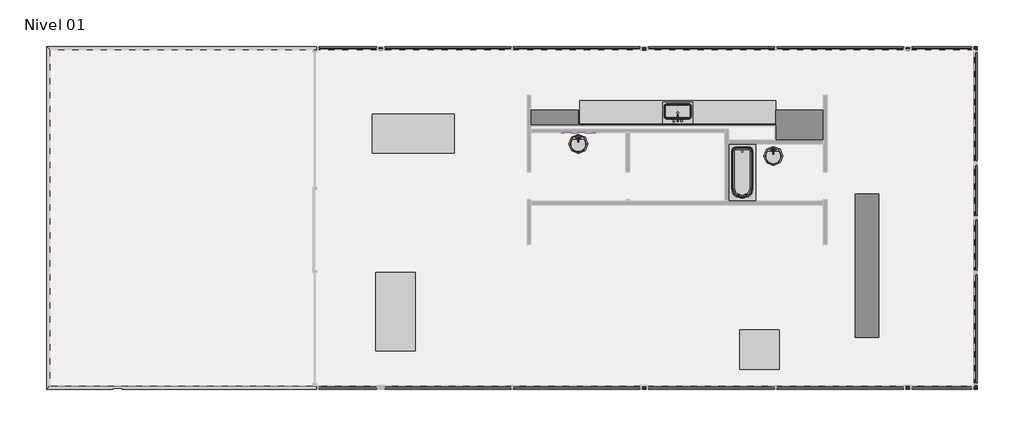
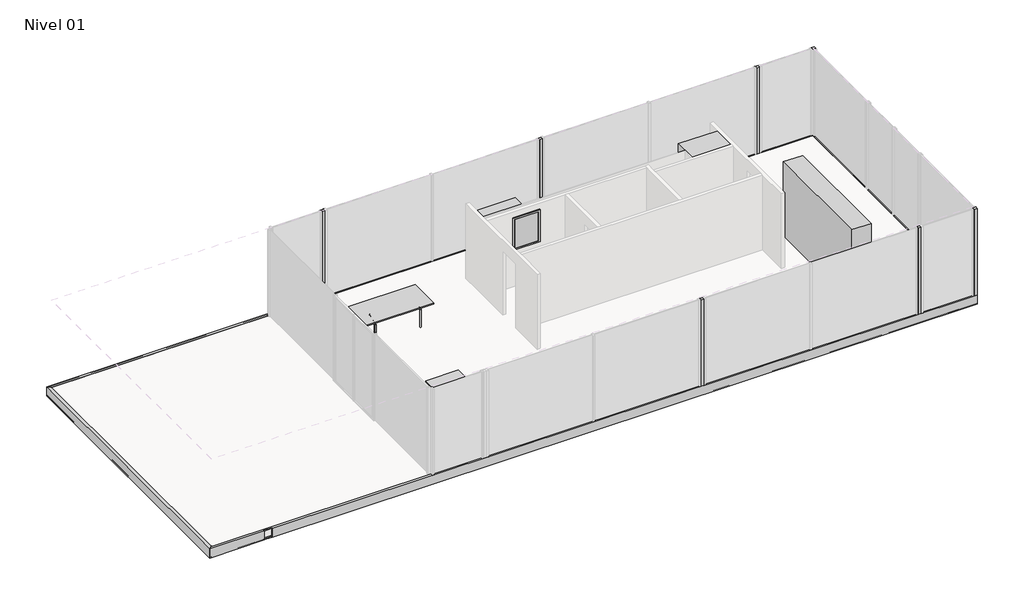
# One storey, part 2 of 2: 14 furniture elements, 7 columns, 4 beams, 4 flow terminals, 1 proxy.
"""IFC4 building model written with IfcOpenShell, lengths in millimetres."""

from ifc_helpers import new_model, si_unit, frame, origin, place, context, project, spatial, polyline, circle_curve, ellipse_curve, outline, extrude, transform, mapped, element, save
from ifc_brep_helpers import plane_surface, cylinder_surface, revolved_surface, advanced_brep
from components import proxy_60cm_a1c3a77f, flow_terminal_14610x_696_mm_010d118e, flow_terminal_482_x_482_mm_0851827a, flow_terminal_760_x_535_mm_626cda17, furniture_ca6b1e75, furniture_fff9fc54, furniture_0e7ee97b, furniture_1dcb9a52, furniture_73ddd999, furniture_38bbf0a8, furniture_2635d5df, furniture_1000_mm_e8eab364, furniture_300_mm_76ee4873, furniture_300_mm_86855b35, furniture_600_mm_683f1335

model = new_model("IFC4")

# Units and contexts
model_context = context("Model", 3, world=origin())
ifc_project = project(units=[si_unit("LENGTHUNIT", "METRE", prefix="MILLI")], contexts=[model_context])

# Site, building, storey
site = spatial("IfcSite", under=ifc_project)
building = spatial("IfcBuilding", under=site)
storey = spatial("IfcBuildingStorey", under=building, Name="Nivel 01", Elevation=1430.0)

# Beams
placement = place(None, origin())
element("IfcBeam", 1, ObjectType="Viga UPN : UPN 300", at=placement, inside=storey, context=model_context, shape_type="AdvancedBrep", body=[
    advanced_brep(
    [(-9319.7825244, 5247.4380644, 1130.0), (-9319.7825244, -3493.1309012, 1130.0), (-9319.7825244, -3493.1309012, 1430.0), (-9319.7825244, 5247.4380644, 1430.0), (-9219.7825244, 5147.4380644, 1130.0), (-9219.7825244, -3393.1309012, 1130.0), (-9219.7825244, 5147.4380644, 1134.6144408), (-9219.7825244, -3393.1309012, 1134.6144408), (-9227.1445626, 5154.8001026, 1142.5889631), (-9227.1445626, -3400.4929394, 1142.5889631), (-9295.0584479, 5222.7139879, 1148.0220739), (-9295.0584479, -3468.4068247, 1148.0220739), (-9309.7825244, 5237.4380644, 1163.9711183), (-9309.7825244, -3483.1309012, 1163.9711183), (-9309.7825244, 5237.4380644, 1396.0288817), (-9309.7825244, -3483.1309012, 1396.0288817), (-9295.0584479, 5222.7139879, 1411.9779261), (-9295.0584479, -3468.4068247, 1411.9779261), (-9227.1445626, 5154.8001026, 1417.4110369), (-9227.1445626, -3400.4929394, 1417.4110369), (-9219.7825244, 5147.4380644, 1425.3855592), (-9219.7825244, -3393.1309012, 1425.3855592), (-9219.7825244, 5147.4380644, 1430.0), (-9219.7825244, -3393.1309012, 1430.0)],
    [
        (0, 1),
        (1, 2),
        (2, 3),
        (3, 0),
        (4, 5),
        (5, 1),
        (0, 4),
        (6, 7),
        (7, 5),
        (4, 6),
        (8, 9),
        (9, 7, ellipse_curve(frame((-9227.7825244, -3401.1309012, 1134.6144408), z_axis=(-0.7071067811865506, 0.7071067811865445, 0.0), x_axis=(0.7071067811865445, 0.7071067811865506, 0.0)), 11.3137085, 8.0)),
        (6, 8, ellipse_curve(frame((-9227.7825244, 5155.4380644, 1134.6144408), z_axis=(-0.7071067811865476, -0.7071067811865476, 0.0), x_axis=(-0.7071067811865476, 0.7071067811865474, 0.0)), 11.3137085, 8.0)),
        (8, 10),
        (10, 11),
        (11, 9),
        (12, 13),
        (13, 11, ellipse_curve(frame((-9293.7825244, -3467.1309012, 1163.9711183), z_axis=(0.7071067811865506, -0.7071067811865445, 0.0), x_axis=(-0.7071067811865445, -0.7071067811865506, 0.0)), 22.627417, 16.0)),
        (10, 12, ellipse_curve(frame((-9293.7825244, 5221.4380644, 1163.9711183), z_axis=(0.7071067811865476, 0.7071067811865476, 0.0), x_axis=(0.7071067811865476, -0.7071067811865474, 0.0)), 22.627417, 16.0)),
        (14, 15),
        (15, 13),
        (12, 14),
        (16, 17),
        (17, 15, ellipse_curve(frame((-9293.7825244, -3467.1309012, 1396.0288817), z_axis=(0.7071067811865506, -0.7071067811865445, 0.0), x_axis=(-0.7071067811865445, -0.7071067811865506, 0.0)), 22.627417, 16.0)),
        (14, 16, ellipse_curve(frame((-9293.7825244, 5221.4380644, 1396.0288817), z_axis=(0.7071067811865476, 0.7071067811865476, 0.0), x_axis=(0.7071067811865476, -0.7071067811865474, 0.0)), 22.627417, 16.0)),
        (16, 18),
        (18, 19),
        (19, 17),
        (20, 21),
        (21, 19, ellipse_curve(frame((-9227.7825244, -3401.1309012, 1425.3855592), z_axis=(-0.7071067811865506, 0.7071067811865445, 0.0), x_axis=(0.7071067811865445, 0.7071067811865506, 0.0)), 11.3137085, 8.0)),
        (18, 20, ellipse_curve(frame((-9227.7825244, 5155.4380644, 1425.3855592), z_axis=(-0.7071067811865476, -0.7071067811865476, 0.0), x_axis=(-0.7071067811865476, 0.7071067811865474, 0.0)), 11.3137085, 8.0)),
        (22, 23),
        (23, 21),
        (20, 22),
        (2, 23),
        (22, 3),
    ],
    [
        plane_surface(frame((-9319.7825244, 5286.9035816, 1430.0), z_axis=(-1.0, 0.0, 0.0), x_axis=(0.0, -1.0, 0.0))),
        plane_surface(frame((-9319.7825244, 5286.9035816, 1130.0), z_axis=(0.0, 0.0, -1.0), x_axis=(0.0, -1.0, 0.0))),
        plane_surface(frame((-9219.7825244, 5286.9035816, 1130.0), z_axis=(1.0, 0.0, 0.0), x_axis=(0.0, -1.0, 0.0))),
        cylinder_surface(frame((-9227.7825244, 5286.9035816, 1134.6144408), z_axis=(0.0, 1.0, 0.0), x_axis=(1.0, 0.0, 0.0)), 8.0),
        plane_surface(frame((-9269.7825244, 5286.9035816, 1146.0), z_axis=(0.07974522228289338, 0.0, 0.9968152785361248), x_axis=(0.0, -1.0, 0.0))),
        revolved_surface(polyline([(-9277.7825244, -3483.1309012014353, 1163.9711183), (-9277.7825244, 5237.438064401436, 1163.9711183)]), (-9293.7825244, 5286.9035816, 1163.9711183), (0.0, -1.0, 0.0)),
        plane_surface(frame((-9309.7825244, 5286.9035816, 1163.9711183), z_axis=(1.0, 0.0, 0.0), x_axis=(0.0, -1.0, 0.0))),
        revolved_surface(polyline([(-9277.7825244, -3483.1309012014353, 1396.0288817), (-9277.7825244, 5237.438064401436, 1396.0288817)]), (-9293.7825244, 5286.9035816, 1396.0288817), (0.0, -1.0, 0.0)),
        plane_surface(frame((-9269.7825244, 5286.9035816, 1414.0), z_axis=(0.07974522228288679, 0.0, -0.9968152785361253), x_axis=(0.0, -1.0, 0.0))),
        cylinder_surface(frame((-9227.7825244, 5286.9035816, 1425.3855592), z_axis=(0.0, 1.0, 0.0), x_axis=(1.0, 0.0, 0.0)), 8.0),
        plane_surface(frame((-9219.7825244, 5286.9035816, 1425.3855592), z_axis=(1.0, 0.0, 0.0), x_axis=(0.0, -1.0, 0.0))),
        plane_surface(frame((-9219.7825244, 5286.9035816, 1430.0), z_axis=(0.0, 0.0, 1.0), x_axis=(0.0, -1.0, 0.0))),
        plane_surface(frame((-9219.7825244, 5147.4380644, 1430.0), z_axis=(0.7071067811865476, 0.7071067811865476, 0.0), x_axis=(0.7071067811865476, -0.7071067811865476, 0.0))),
        plane_surface(frame((-9219.7825244, -3393.1309012, 1430.0), z_axis=(0.7071067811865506, -0.7071067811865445, 0.0), x_axis=(0.7071067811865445, 0.7071067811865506, 0.0))),
    ],
    [
        (0, [[1, 2, 3, 4]]),
        (1, [[5, 6, -1, 7]]),
        (2, [[8, 9, -5, 10]]),
        (3, [[11, 12, -8, 13]]),
        (4, [[14, 15, 16, -11]]),
        (5, [[17, 18, -15, 19]]),
        (6, [[20, 21, -17, 22]]),
        (7, [[23, 24, -20, 25]]),
        (8, [[26, 27, 28, -23]]),
        (9, [[29, 30, -27, 31]]),
        (10, [[32, 33, -29, 34]]),
        (11, [[-3, 35, -32, 36]]),
        (12, [[-36, -34, -31, -26, -25, -22, -19, -14, -13, -10, -7, -4]]),
        (13, [[-2, -6, -9, -12, -16, -18, -21, -24, -28, -30, -33, -35]]),
    ],
),
])
element("IfcBeam", 2, ObjectType="Viga UPN : UPN 300", at=placement, inside=storey, context=model_context, shape_type="AdvancedBrep", body=[
    advanced_brep(
    [(-9319.7825244, 5247.4380644, 1130.0), (-9319.7825244, 5247.4380644, 1430.0), (14393.772648, 5247.4380644, 1430.0), (14393.772648, 5247.4380644, 1130.0), (-9219.7825244, 5147.4380644, 1130.0), (14293.772648, 5147.4380644, 1130.0), (-9219.7825244, 5147.4380644, 1134.6144408), (14293.772648, 5147.4380644, 1134.6144408), (-9227.1445626, 5154.8001026, 1142.5889631), (14301.1346863, 5154.8001026, 1142.5889631), (14369.0485716, 5222.7139879, 1148.0220739), (-9295.0584479, 5222.7139879, 1148.0220739), (-9309.7825244, 5237.4380644, 1163.9711183), (14383.772648, 5237.4380644, 1163.9711183), (-9309.7825244, 5237.4380644, 1396.0288817), (14383.772648, 5237.4380644, 1396.0288817), (-9295.0584479, 5222.7139879, 1411.9779261), (14369.0485716, 5222.7139879, 1411.9779261), (14301.1346863, 5154.8001026, 1417.4110369), (-9227.1445626, 5154.8001026, 1417.4110369), (-9219.7825244, 5147.4380644, 1425.3855592), (14293.772648, 5147.4380644, 1425.3855592), (-9219.7825244, 5147.4380644, 1430.0), (14293.772648, 5147.4380644, 1430.0)],
    [
        (0, 1),
        (1, 2),
        (2, 3),
        (3, 0),
        (4, 0),
        (3, 5),
        (5, 4),
        (6, 4),
        (5, 7),
        (7, 6),
        (8, 6, ellipse_curve(frame((-9227.7825244, 5155.4380644, 1134.6144408), z_axis=(0.7071067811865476, 0.7071067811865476, 0.0), x_axis=(-0.7071067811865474, 0.7071067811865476, 0.0)), 11.3137085, 8.0)),
        (7, 9, ellipse_curve(frame((14301.772648, 5155.4380644, 1134.6144408), z_axis=(-0.7071067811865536, 0.7071067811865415, 0.0), x_axis=(-0.7071067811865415, -0.7071067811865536, 0.0)), 11.3137085, 8.0)),
        (9, 8),
        (9, 10),
        (10, 11),
        (11, 8),
        (12, 11, ellipse_curve(frame((-9293.7825244, 5221.4380644, 1163.9711183), z_axis=(-0.7071067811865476, -0.7071067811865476, 0.0), x_axis=(0.7071067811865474, -0.7071067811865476, 0.0)), 22.627417, 16.0)),
        (10, 13, ellipse_curve(frame((14367.772648, 5221.4380644, 1163.9711183), z_axis=(0.7071067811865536, -0.7071067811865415, 0.0), x_axis=(0.7071067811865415, 0.7071067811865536, 0.0)), 22.627417, 16.0)),
        (13, 12),
        (14, 12),
        (13, 15),
        (15, 14),
        (16, 14, ellipse_curve(frame((-9293.7825244, 5221.4380644, 1396.0288817), z_axis=(-0.7071067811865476, -0.7071067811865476, 0.0), x_axis=(0.7071067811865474, -0.7071067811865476, 0.0)), 22.627417, 16.0)),
        (15, 17, ellipse_curve(frame((14367.772648, 5221.4380644, 1396.0288817), z_axis=(0.7071067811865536, -0.7071067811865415, 0.0), x_axis=(0.7071067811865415, 0.7071067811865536, 0.0)), 22.627417, 16.0)),
        (17, 16),
        (17, 18),
        (18, 19),
        (19, 16),
        (20, 19, ellipse_curve(frame((-9227.7825244, 5155.4380644, 1425.3855592), z_axis=(0.7071067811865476, 0.7071067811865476, 0.0), x_axis=(-0.7071067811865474, 0.7071067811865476, 0.0)), 11.3137085, 8.0)),
        (18, 21, ellipse_curve(frame((14301.772648, 5155.4380644, 1425.3855592), z_axis=(-0.7071067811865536, 0.7071067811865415, 0.0), x_axis=(-0.7071067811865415, -0.7071067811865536, 0.0)), 11.3137085, 8.0)),
        (21, 20),
        (22, 20),
        (21, 23),
        (23, 22),
        (1, 22),
        (23, 2),
    ],
    [
        plane_surface(frame((-9167.8637428, 5247.4380644, 1430.0), z_axis=(0.0, 1.0, 0.0), x_axis=(1.0, 0.0, 0.0))),
        plane_surface(frame((-9167.8637428, 5247.4380644, 1130.0), z_axis=(0.0, 0.0, -1.0), x_axis=(1.0, 0.0, 0.0))),
        plane_surface(frame((-9167.8637428, 5147.4380644, 1130.0), z_axis=(0.0, -1.0, 0.0), x_axis=(1.0, 0.0, 0.0))),
        cylinder_surface(frame((-9167.8637428, 5155.4380644, 1134.6144408), z_axis=(-1.0, 0.0, 0.0), x_axis=(0.0, -1.0, 0.0)), 8.0),
        plane_surface(frame((-9167.8637428, 5197.4380644, 1146.0), z_axis=(0.0, -0.07974522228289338, 0.9968152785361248), x_axis=(1.0, 0.0, 0.0))),
        revolved_surface(polyline([(14383.772648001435, 5205.4380644, 1163.9711183), (-9309.782524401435, 5205.4380644, 1163.9711183)]), (-9167.8637428, 5221.4380644, 1163.9711183), (1.0, 0.0, 0.0)),
        plane_surface(frame((-9167.8637428, 5237.4380644, 1163.9711183), z_axis=(0.0, -1.0, 0.0), x_axis=(1.0, 0.0, 0.0))),
        revolved_surface(polyline([(14383.772648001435, 5205.4380644, 1396.0288817), (-9309.782524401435, 5205.4380644, 1396.0288817)]), (-9167.8637428, 5221.4380644, 1396.0288817), (1.0, 0.0, 0.0)),
        plane_surface(frame((-9167.8637428, 5197.4380644, 1414.0), z_axis=(0.0, -0.07974522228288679, -0.9968152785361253), x_axis=(1.0, 0.0, 0.0))),
        cylinder_surface(frame((-9167.8637428, 5155.4380644, 1425.3855592), z_axis=(-1.0, 0.0, 0.0), x_axis=(0.0, -1.0, 0.0)), 8.0),
        plane_surface(frame((-9167.8637428, 5147.4380644, 1425.3855592), z_axis=(0.0, -1.0, 0.0), x_axis=(1.0, 0.0, 0.0))),
        plane_surface(frame((-9167.8637428, 5147.4380644, 1430.0), z_axis=(0.0, 0.0, 1.0), x_axis=(1.0, 0.0, 0.0))),
        plane_surface(frame((14293.772648, 5147.4380644, 1430.0), z_axis=(0.7071067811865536, -0.7071067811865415, 0.0), x_axis=(0.7071067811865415, 0.7071067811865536, 0.0))),
        plane_surface(frame((-9219.7825244, 5147.4380644, 1430.0), z_axis=(-0.7071067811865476, -0.7071067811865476, 0.0), x_axis=(0.7071067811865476, -0.7071067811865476, 0.0))),
    ],
    [
        (0, [[1, 2, 3, 4]]),
        (1, [[5, -4, 6, 7]]),
        (2, [[8, -7, 9, 10]]),
        (3, [[11, -10, 12, 13]]),
        (4, [[-13, 14, 15, 16]]),
        (5, [[17, -15, 18, 19]]),
        (6, [[20, -19, 21, 22]]),
        (7, [[23, -22, 24, 25]]),
        (8, [[-25, 26, 27, 28]]),
        (9, [[29, -27, 30, 31]]),
        (10, [[32, -31, 33, 34]]),
        (11, [[35, -34, 36, -2]]),
        (12, [[-36, -33, -30, -26, -24, -21, -18, -14, -12, -9, -6, -3]]),
        (13, [[-1, -5, -8, -11, -16, -17, -20, -23, -28, -29, -32, -35]]),
    ],
),
])
element("IfcBeam", 3, ObjectType="Viga UPN : UPN 300", at=placement, inside=storey, context=model_context, shape_type="AdvancedBrep", body=[
    advanced_brep(
    [(14393.772648, 5247.4380644, 1130.0), (14393.772648, 5247.4380644, 1430.0), (14393.772648, -3493.1309012, 1430.0), (14393.772648, -3493.1309012, 1130.0), (14293.772648, 5147.4380644, 1130.0), (14293.772648, -3393.1309012, 1130.0), (14293.772648, 5147.4380644, 1134.6144408), (14293.772648, -3393.1309012, 1134.6144408), (14301.1346863, 5154.8001026, 1142.5889631), (14301.1346863, -3400.4929394, 1142.5889631), (14369.0485716, -3468.4068247, 1148.0220739), (14369.0485716, 5222.7139879, 1148.0220739), (14383.772648, 5237.4380644, 1163.9711183), (14383.772648, -3483.1309012, 1163.9711183), (14383.772648, 5237.4380644, 1396.0288817), (14383.772648, -3483.1309012, 1396.0288817), (14369.0485716, 5222.7139879, 1411.9779261), (14369.0485716, -3468.4068247, 1411.9779261), (14301.1346863, -3400.4929394, 1417.4110369), (14301.1346863, 5154.8001026, 1417.4110369), (14293.772648, 5147.4380644, 1425.3855592), (14293.772648, -3393.1309012, 1425.3855592), (14293.772648, 5147.4380644, 1430.0), (14293.772648, -3393.1309012, 1430.0)],
    [
        (0, 1),
        (1, 2),
        (2, 3),
        (3, 0),
        (4, 0),
        (3, 5),
        (5, 4),
        (6, 4),
        (5, 7),
        (7, 6),
        (8, 6, ellipse_curve(frame((14301.772648, 5155.4380644, 1134.6144408), z_axis=(0.7071067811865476, -0.7071067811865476, 0.0), x_axis=(0.7071067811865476, 0.7071067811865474, 0.0)), 11.3137085, 8.0)),
        (7, 9, ellipse_curve(frame((14301.772648, -3401.1309012, 1134.6144408), z_axis=(0.7071067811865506, 0.7071067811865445, 0.0), x_axis=(-0.7071067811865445, 0.7071067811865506, 0.0)), 11.3137085, 8.0)),
        (9, 8),
        (9, 10),
        (10, 11),
        (11, 8),
        (12, 11, ellipse_curve(frame((14367.772648, 5221.4380644, 1163.9711183), z_axis=(-0.7071067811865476, 0.7071067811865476, 0.0), x_axis=(-0.7071067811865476, -0.7071067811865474, 0.0)), 22.627417, 16.0)),
        (10, 13, ellipse_curve(frame((14367.772648, -3467.1309012, 1163.9711183), z_axis=(-0.7071067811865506, -0.7071067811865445, 0.0), x_axis=(0.7071067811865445, -0.7071067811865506, 0.0)), 22.627417, 16.0)),
        (13, 12),
        (14, 12),
        (13, 15),
        (15, 14),
        (16, 14, ellipse_curve(frame((14367.772648, 5221.4380644, 1396.0288817), z_axis=(-0.7071067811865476, 0.7071067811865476, 0.0), x_axis=(-0.7071067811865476, -0.7071067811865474, 0.0)), 22.627417, 16.0)),
        (15, 17, ellipse_curve(frame((14367.772648, -3467.1309012, 1396.0288817), z_axis=(-0.7071067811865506, -0.7071067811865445, 0.0), x_axis=(0.7071067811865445, -0.7071067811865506, 0.0)), 22.627417, 16.0)),
        (17, 16),
        (17, 18),
        (18, 19),
        (19, 16),
        (20, 19, ellipse_curve(frame((14301.772648, 5155.4380644, 1425.3855592), z_axis=(0.7071067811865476, -0.7071067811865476, 0.0), x_axis=(0.7071067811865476, 0.7071067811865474, 0.0)), 11.3137085, 8.0)),
        (18, 21, ellipse_curve(frame((14301.772648, -3401.1309012, 1425.3855592), z_axis=(0.7071067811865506, 0.7071067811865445, 0.0), x_axis=(-0.7071067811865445, 0.7071067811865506, 0.0)), 11.3137085, 8.0)),
        (21, 20),
        (22, 20),
        (21, 23),
        (23, 22),
        (1, 22),
        (23, 2),
    ],
    [
        plane_surface(frame((14393.772648, 5286.9035816, 1430.0), z_axis=(1.0, 0.0, 0.0), x_axis=(0.0, -1.0, 0.0))),
        plane_surface(frame((14393.772648, 5286.9035816, 1130.0), z_axis=(0.0, 0.0, -1.0), x_axis=(0.0, -1.0, 0.0))),
        plane_surface(frame((14293.772648, 5286.9035816, 1130.0), z_axis=(-1.0, 0.0, 0.0), x_axis=(0.0, -1.0, 0.0))),
        cylinder_surface(frame((14301.772648, 5286.9035816, 1134.6144408), z_axis=(0.0, 1.0, 0.0), x_axis=(-1.0, 0.0, 0.0)), 8.0),
        plane_surface(frame((14343.772648, 5286.9035816, 1146.0), z_axis=(-0.07974522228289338, 0.0, 0.9968152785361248), x_axis=(0.0, -1.0, 0.0))),
        revolved_surface(polyline([(14351.772648, -3483.1309012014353, 1163.9711183), (14351.772648, 5237.438064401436, 1163.9711183)]), (14367.772648, 5286.9035816, 1163.9711183), (0.0, -1.0, 0.0)),
        plane_surface(frame((14383.772648, 5286.9035816, 1163.9711183), z_axis=(-1.0, 0.0, 0.0), x_axis=(0.0, -1.0, 0.0))),
        revolved_surface(polyline([(14351.772648, -3483.1309012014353, 1396.0288817), (14351.772648, 5237.438064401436, 1396.0288817)]), (14367.772648, 5286.9035816, 1396.0288817), (0.0, -1.0, 0.0)),
        plane_surface(frame((14343.772648, 5286.9035816, 1414.0), z_axis=(-0.07974522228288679, 0.0, -0.9968152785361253), x_axis=(0.0, -1.0, 0.0))),
        cylinder_surface(frame((14301.772648, 5286.9035816, 1425.3855592), z_axis=(0.0, 1.0, 0.0), x_axis=(-1.0, 0.0, 0.0)), 8.0),
        plane_surface(frame((14293.772648, 5286.9035816, 1425.3855592), z_axis=(-1.0, 0.0, 0.0), x_axis=(0.0, -1.0, 0.0))),
        plane_surface(frame((14293.772648, 5286.9035816, 1430.0), z_axis=(0.0, 0.0, 1.0), x_axis=(0.0, -1.0, 0.0))),
        plane_surface(frame((14293.772648, -3393.1309012, 1430.0), z_axis=(-0.7071067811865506, -0.7071067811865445, 0.0), x_axis=(0.7071067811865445, -0.7071067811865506, 0.0))),
        plane_surface(frame((14293.772648, 5147.4380644, 1430.0), z_axis=(-0.7071067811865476, 0.7071067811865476, 0.0), x_axis=(0.7071067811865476, 0.7071067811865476, 0.0))),
    ],
    [
        (0, [[1, 2, 3, 4]]),
        (1, [[5, -4, 6, 7]]),
        (2, [[8, -7, 9, 10]]),
        (3, [[11, -10, 12, 13]]),
        (4, [[-13, 14, 15, 16]]),
        (5, [[17, -15, 18, 19]]),
        (6, [[20, -19, 21, 22]]),
        (7, [[23, -22, 24, 25]]),
        (8, [[-25, 26, 27, 28]]),
        (9, [[29, -27, 30, 31]]),
        (10, [[32, -31, 33, 34]]),
        (11, [[35, -34, 36, -2]]),
        (12, [[-36, -33, -30, -26, -24, -21, -18, -14, -12, -9, -6, -3]]),
        (13, [[-1, -5, -8, -11, -16, -17, -20, -23, -28, -29, -32, -35]]),
    ],
),
])
element("IfcBeam", 4, ObjectType="Viga UPN : UPN 300", at=placement, inside=storey, context=model_context, shape_type="AdvancedBrep", body=[
    advanced_brep(
    [(-9319.7825244, -3493.1309012, 1430.0), (-9319.7825244, -3493.1309012, 1130.0), (-7637.0118347, -3493.1309012, 1130.0), (-7637.0118347, -3493.1309012, 1430.0), (-9219.7825244, -3393.1309012, 1130.0), (14293.772648, -3393.1309012, 1130.0), (14393.772648, -3493.1309012, 1130.0), (-7397.0118347, -3493.1309012, 1130.0), (-7397.0118347, -3473.1309012, 1130.0), (-7637.0118347, -3473.1309012, 1130.0), (-9219.7825244, -3393.1309012, 1134.6144408), (14293.772648, -3393.1309012, 1134.6144408), (-9227.1445626, -3400.4929394, 1142.5889631), (14301.1346863, -3400.4929394, 1142.5889631), (-9295.0584479, -3468.4068247, 1148.0220739), (14369.0485716, -3468.4068247, 1148.0220739), (-9309.7825244, -3483.1309012, 1163.9711183), (-7637.0118347, -3483.1309012, 1163.9711183), (-7637.0118347, -3473.1309012, 1149.1387214), (-7397.0118347, -3473.1309012, 1149.1387214), (-7397.0118347, -3483.1309012, 1163.9711183), (14383.772648, -3483.1309012, 1163.9711183), (-9309.7825244, -3483.1309012, 1396.0288817), (-7637.0118347, -3483.1309012, 1396.0288817), (-9295.0584479, -3468.4068247, 1411.9779261), (14369.0485716, -3468.4068247, 1411.9779261), (14383.772648, -3483.1309012, 1396.0288817), (-7397.0118347, -3483.1309012, 1396.0288817), (-7397.0118347, -3473.1309012, 1410.8612786), (-7637.0118347, -3473.1309012, 1410.8612786), (-9227.1445626, -3400.4929394, 1417.4110369), (14301.1346863, -3400.4929394, 1417.4110369), (-9219.7825244, -3393.1309012, 1425.3855592), (14293.772648, -3393.1309012, 1425.3855592), (-9219.7825244, -3393.1309012, 1430.0), (14293.772648, -3393.1309012, 1430.0), (-7637.0118347, -3473.1309012, 1430.0), (-7397.0118347, -3473.1309012, 1430.0), (-7397.0118347, -3493.1309012, 1430.0), (14393.772648, -3493.1309012, 1430.0)],
    [
        (0, 1),
        (1, 2),
        (2, 3),
        (3, 0),
        (4, 5),
        (5, 6),
        (6, 7),
        (7, 8),
        (8, 9),
        (9, 2),
        (1, 4),
        (4, 10),
        (10, 11),
        (11, 5),
        (10, 12, ellipse_curve(frame((-9227.7825244, -3401.1309012, 1134.6144408), z_axis=(0.707106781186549, -0.707106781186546, 0.0), x_axis=(-0.707106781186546, -0.707106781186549, 0.0)), 11.3137085, 8.0)),
        (12, 13),
        (13, 11, ellipse_curve(frame((14301.772648, -3401.1309012, 1134.6144408), z_axis=(-0.7071067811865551, -0.7071067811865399, 0.0), x_axis=(-0.7071067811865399, 0.7071067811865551, 0.0)), 11.3137085, 8.0)),
        (12, 14),
        (14, 15),
        (15, 13),
        (14, 16, ellipse_curve(frame((-9293.7825244, -3467.1309012, 1163.9711183), z_axis=(-0.707106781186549, 0.707106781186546, 0.0), x_axis=(0.707106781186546, 0.707106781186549, 0.0)), 22.627417, 16.0)),
        (16, 17),
        (17, 18, circle_curve(frame((-7637.0118347, -3467.1309012, 1163.9711183), z_axis=(1.0, 0.0, 0.0), x_axis=(0.0, 1.0, 0.0)), 16.0)),
        (18, 19),
        (19, 20, circle_curve(frame((-7397.0118347, -3467.1309012, 1163.9711183), z_axis=(-1.0, 0.0, 0.0), x_axis=(0.0, 1.0, 0.0)), 16.0)),
        (20, 21),
        (21, 15, ellipse_curve(frame((14367.772648, -3467.1309012, 1163.9711183), z_axis=(0.7071067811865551, 0.7071067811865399, 0.0), x_axis=(0.7071067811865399, -0.7071067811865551, 0.0)), 22.627417, 16.0)),
        (16, 22),
        (22, 23),
        (23, 17),
        (24, 25),
        (25, 26, ellipse_curve(frame((14367.772648, -3467.1309012, 1396.0288817), z_axis=(0.7071067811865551, 0.7071067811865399, 0.0), x_axis=(0.7071067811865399, -0.7071067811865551, 0.0)), 22.627417, 16.0)),
        (26, 27),
        (27, 28, circle_curve(frame((-7397.0118347, -3467.1309012, 1396.0288817), z_axis=(-1.0, 0.0, 0.0), x_axis=(0.0, 1.0, 0.0)), 16.0)),
        (28, 29),
        (29, 23, circle_curve(frame((-7637.0118347, -3467.1309012, 1396.0288817), z_axis=(1.0, 0.0, 0.0), x_axis=(0.0, 1.0, 0.0)), 16.0)),
        (22, 24, ellipse_curve(frame((-9293.7825244, -3467.1309012, 1396.0288817), z_axis=(-0.707106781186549, 0.707106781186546, 0.0), x_axis=(0.707106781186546, 0.707106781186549, 0.0)), 22.627417, 16.0)),
        (24, 30),
        (30, 31),
        (31, 25),
        (30, 32, ellipse_curve(frame((-9227.7825244, -3401.1309012, 1425.3855592), z_axis=(0.707106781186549, -0.707106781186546, 0.0), x_axis=(-0.707106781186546, -0.707106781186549, 0.0)), 11.3137085, 8.0)),
        (32, 33),
        (33, 31, ellipse_curve(frame((14301.772648, -3401.1309012, 1425.3855592), z_axis=(-0.7071067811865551, -0.7071067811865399, 0.0), x_axis=(-0.7071067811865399, 0.7071067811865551, 0.0)), 11.3137085, 8.0)),
        (32, 34),
        (34, 35),
        (35, 33),
        (34, 0),
        (3, 36),
        (36, 37),
        (37, 38),
        (38, 39),
        (39, 35),
        (39, 6),
        (21, 26),
        (38, 7),
        (20, 27),
        (9, 18),
        (29, 36),
        (8, 19),
        (37, 28),
    ],
    [
        plane_surface(frame((-9112.1443911, -3493.1309012, 1430.0), z_axis=(0.0, -1.0, 0.0), x_axis=(1.0, 0.0, 0.0))),
        plane_surface(frame((-9112.1443911, -3493.1309012, 1130.0), z_axis=(0.0, 0.0, -1.0), x_axis=(1.0, 0.0, 0.0))),
        plane_surface(frame((-9112.1443911, -3393.1309012, 1130.0), z_axis=(0.0, 1.0, 0.0), x_axis=(1.0, 0.0, 0.0))),
        cylinder_surface(frame((-9112.1443911, -3401.1309012, 1134.6144408), z_axis=(-1.0, 0.0, 0.0), x_axis=(0.0, 1.0, 0.0)), 8.0),
        plane_surface(frame((-9112.1443911, -3443.1309012, 1146.0), z_axis=(0.0, 0.07974522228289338, 0.9968152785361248), x_axis=(1.0, 0.0, 0.0))),
        revolved_surface(polyline([(14383.772648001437, -3451.1309012, 1163.9711183), (-9309.782524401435, -3451.1309012, 1163.9711183)]), (-9112.1443911, -3467.1309012, 1163.9711183), (1.0, 0.0, 0.0)),
        plane_surface(frame((-9112.1443911, -3483.1309012, 1163.9711183), z_axis=(0.0, 1.0, 0.0), x_axis=(1.0, 0.0, 0.0))),
        revolved_surface(polyline([(14383.772648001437, -3451.1309012, 1396.0288817), (-9309.782524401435, -3451.1309012, 1396.0288817)]), (-9112.1443911, -3467.1309012, 1396.0288817), (1.0, 0.0, 0.0)),
        plane_surface(frame((-9112.1443911, -3443.1309012, 1414.0), z_axis=(0.0, 0.07974522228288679, -0.9968152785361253), x_axis=(1.0, 0.0, 0.0))),
        cylinder_surface(frame((-9112.1443911, -3401.1309012, 1425.3855592), z_axis=(-1.0, 0.0, 0.0), x_axis=(0.0, 1.0, 0.0)), 8.0),
        plane_surface(frame((-9112.1443911, -3393.1309012, 1425.3855592), z_axis=(0.0, 1.0, 0.0), x_axis=(1.0, 0.0, 0.0))),
        plane_surface(frame((-9112.1443911, -3393.1309012, 1430.0), z_axis=(0.0, 0.0, 1.0), x_axis=(1.0, 0.0, 0.0))),
        plane_surface(frame((14293.772648, -3393.1309012, 1430.0), z_axis=(0.7071067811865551, 0.7071067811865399, 0.0), x_axis=(0.7071067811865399, -0.7071067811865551, 0.0))),
        plane_surface(frame((-9219.7825244, -3393.1309012, 1430.0), z_axis=(-0.707106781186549, 0.707106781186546, 0.0), x_axis=(0.707106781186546, 0.707106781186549, 0.0))),
        plane_surface(frame((-7637.0118347, -3528.1309012, -1020.0), z_axis=(1.0, 0.0, 0.0), x_axis=(0.0, 0.0, 1.0))),
        plane_surface(frame((-7637.0118347, -3473.1309012, -1020.0), z_axis=(0.0, -1.0, 0.0), x_axis=(0.0, 0.0, 1.0))),
        plane_surface(frame((-7397.0118347, -3473.1309012, -1020.0), z_axis=(-1.0, 0.0, 0.0), x_axis=(0.0, 0.0, 1.0))),
    ],
    [
        (0, [[1, 2, 3, 4]]),
        (1, [[5, 6, 7, 8, 9, 10, -2, 11]]),
        (2, [[-5, 12, 13, 14]]),
        (3, [[-13, 15, 16, 17]]),
        (4, [[-16, 18, 19, 20]]),
        (5, [[-19, 21, 22, 23, 24, 25, 26, 27]]),
        (6, [[28, 29, 30, -22]]),
        (7, [[31, 32, 33, 34, 35, 36, -29, 37]]),
        (8, [[-31, 38, 39, 40]]),
        (9, [[-39, 41, 42, 43]]),
        (10, [[-42, 44, 45, 46]]),
        (11, [[-45, 47, -4, 48, 49, 50, 51, 52]]),
        (12, [[53, -6, -14, -17, -20, -27, 54, -32, -40, -43, -46, -52]]),
        (13, [[-47, -44, -41, -38, -37, -28, -21, -18, -15, -12, -11, -1]]),
        (0, [[-53, -51, 55, -7]]),
        (6, [[-54, -26, 56, -33]]),
        (14, [[57, -23, -30, -36, 58, -48, -3, -10]]),
        (15, [[-57, -9, 59, -24]]),
        (16, [[-59, -8, -55, -50, 60, -34, -56, -25]]),
        (15, [[-58, -35, -60, -49]]),
    ],
),
])

# Proxy
proxy_60cm_shape = proxy_60cm_a1c3a77f(model_context)
element("IfcBuildingElementProxy", 5, Name="Encimera : 60cm", ObjectType="Encimera : 60cm", at=placement, inside=storey, context=model_context, shape_type="MappedRepresentation", body=[
    mapped(proxy_60cm_shape, transform((4258.2209239, 3244.0759954, 1430.0), x_axis=(1.0, 0.0, 0.0), y_axis=(0.0, 1.0, 0.0), z_axis=(0.0, 0.0, 1.0))),
])

# Columns
element("IfcColumn", 6, ObjectType="Pilar SQS : SQS 100x100", at=placement, inside=storey, context=model_context, shape_type="SweptSolid", body=[
    extrude(outline(polyline([(12664.134717, -3393.1309012), (12664.134717, -3493.1309012), (12564.134717, -3493.1309012), (12564.134717, -3393.1309012), (12664.134717, -3393.1309012)])), frame((0.0, 0.0, 1430.0), z_axis=(0.0, 0.0, 1.0), x_axis=(1.0, 0.0, 0.0)), (0.0, 0.0, 1.0), 2820.0),
])
element("IfcColumn", 7, ObjectType="Pilar SQS : SQS 100x100", at=placement, inside=storey, context=model_context, shape_type="SweptSolid", body=[
    extrude(outline(polyline([(14393.772648, -3393.1309012), (14393.772648, -3493.1309012), (14293.772648, -3493.1309012), (14293.772648, -3393.1309012), (14393.772648, -3393.1309012)])), frame((0.0, 0.0, 1430.0), z_axis=(0.0, 0.0, 1.0), x_axis=(1.0, 0.0, 0.0)), (0.0, 0.0, 1.0), 2820.0),
])
element("IfcColumn", 8, ObjectType="Pilar SQS : SQS 100x100", at=placement, inside=storey, context=model_context, shape_type="SweptSolid", body=[
    extrude(outline(polyline([(5952.3416135, -3393.1309012), (5952.3416135, -3493.1309012), (5852.3416135, -3493.1309012), (5852.3416135, -3393.1309012), (5952.3416135, -3393.1309012)])), frame((0.0, 0.0, 1430.0), z_axis=(0.0, 0.0, 1.0), x_axis=(1.0, 0.0, 0.0)), (0.0, 0.0, 1.0), 2820.0),
])
element("IfcColumn", 9, ObjectType="Pilar SQS : SQS 100x100", at=placement, inside=storey, context=model_context, shape_type="SweptSolid", body=[
    extrude(outline(polyline([(12664.134717, 5247.4380644), (12664.134717, 5147.4380644), (12564.134717, 5147.4380644), (12564.134717, 5247.4380644), (12664.134717, 5247.4380644)])), frame((0.0, 0.0, 1430.0), z_axis=(0.0, 0.0, 1.0), x_axis=(1.0, 0.0, 0.0)), (0.0, 0.0, 1.0), 2820.0),
])
element("IfcColumn", 10, ObjectType="Pilar SQS : SQS 100x100", at=placement, inside=storey, context=model_context, shape_type="SweptSolid", body=[
    extrude(outline(polyline([(14393.772648, 5247.4380644), (14393.772648, 5147.4380644), (14293.772648, 5147.4380644), (14293.772648, 5247.4380644), (14393.772648, 5247.4380644)])), frame((0.0, 0.0, 1430.0), z_axis=(0.0, 0.0, 1.0), x_axis=(1.0, 0.0, 0.0)), (0.0, 0.0, 1.0), 2820.0),
])
element("IfcColumn", 11, ObjectType="Pilar SQS : SQS 100x100", at=placement, inside=storey, context=model_context, shape_type="SweptSolid", body=[
    extrude(outline(polyline([(5952.3416135, 5247.4380644), (5952.3416135, 5147.4380644), (5852.3416135, 5147.4380644), (5852.3416135, 5247.4380644), (5952.3416135, 5247.4380644)])), frame((0.0, 0.0, 1430.0), z_axis=(0.0, 0.0, 1.0), x_axis=(1.0, 0.0, 0.0)), (0.0, 0.0, 1.0), 2820.0),
])
element("IfcColumn", 12, ObjectType="Pilar SQS : SQS 100x100", at=placement, inside=storey, context=model_context, shape_type="SweptSolid", body=[
    extrude(outline(polyline([(-759.4601106, 5247.4380644), (-759.4601106, 5147.4380644), (-859.4601106, 5147.4380644), (-859.4601106, 5247.4380644), (-759.4601106, 5247.4380644)])), frame((0.0, 0.0, 1430.0), z_axis=(0.0, 0.0, 1.0), x_axis=(1.0, 0.0, 0.0)), (0.0, 0.0, 1.0), 2820.0),
])

# Flow terminals
flow_terminal_14610x_696_mm_shape = flow_terminal_14610x_696_mm_010d118e(model_context)
element("IfcFlowTerminal", 13, ObjectType="Bañera-Rectangular-3D : 14610x 696 mm", at=placement, inside=storey, context=model_context, shape_type="MappedRepresentation", body=[
    mapped(flow_terminal_14610x_696_mm_shape, transform((8003.1519584, 1652.1281991, 1430.0), x_axis=(0.0, -1.0, 0.0), y_axis=(1.0, 0.0, 0.0), z_axis=(0.0, 0.0, 1.0))),
])
flow_terminal_482_x_482_mm_shape = flow_terminal_482_x_482_mm_0851827a(model_context)
element("IfcFlowTerminal", 14, ObjectType="Lavabo con encimera redonda-3D : 482 x 482 mm", at=placement, inside=storey, context=model_context, shape_type="MappedRepresentation", body=[
    mapped(flow_terminal_482_x_482_mm_shape, transform((9096.6381488, 2369.124349, 1430.0), x_axis=(1.0, 0.0, 0.0), y_axis=(0.0, 1.0, 0.0), z_axis=(0.0, 0.0, 1.0))),
])
element("IfcFlowTerminal", 15, ObjectType="Lavabo con encimera redonda-3D : 482 x 482 mm", at=placement, inside=storey, context=model_context, shape_type="MappedRepresentation", body=[
    mapped(flow_terminal_482_x_482_mm_shape, transform((4129.5052465, 2677.5634493, 1430.0), x_axis=(1.0, 0.0, 0.0), y_axis=(0.0, 1.0, 0.0), z_axis=(0.0, 0.0, 1.0))),
])
flow_terminal_760_x_535_mm_shape = flow_terminal_760_x_535_mm_626cda17(model_context)
element("IfcFlowTerminal", 16, ObjectType="Fregadero de cocina-Simple : 760 x 535 mm", at=placement, inside=storey, context=model_context, shape_type="MappedRepresentation", body=[
    mapped(flow_terminal_760_x_535_mm_shape, transform((6773.9101645, 3557.0213965, 1430.0), x_axis=(-1.0, 0.0, 0.0), y_axis=(0.0, -1.0, 0.0), z_axis=(0.0, 0.0, 1.0))),
])

# Furniture
furniture_shape = furniture_ca6b1e75(model_context)
element("IfcFurniture", 17, ObjectType="Knoll_Studio_MiesvanderRohe_Barcelona_Table : Knoll_Studio_MiesvanderRohe_Barcelona_Table", at=placement, inside=storey, context=model_context, shape_type="MappedRepresentation", body=[
    mapped(furniture_shape, transform((8838.8398842, -2481.8809012, 1430.0), x_axis=(1.0, 0.0, 0.0), y_axis=(0.0, 1.0, 0.0), z_axis=(0.0, 0.0, 1.0))),
])
furniture_2_shape = furniture_fff9fc54(model_context)
element("IfcFurniture", 18, ObjectType="Knoll_Studio_Lovegrove_Table_Desks_Rectangular : Knoll_Studio_Lovegrove_Table_Desks_Rectangular", at=placement, inside=storey, context=model_context, shape_type="MappedRepresentation", body=[
    mapped(furniture_2_shape, transform((-429.0341048, -1560.2705563, 1460.0), x_axis=(0.0, 1.0, 0.0), y_axis=(-1.0, 0.0, 0.0), z_axis=(0.0, 0.0, 1.0))),
])
furniture_3_shape = furniture_0e7ee97b(model_context)
element("IfcFurniture", 19, ObjectType="Knoll_Studio_Lovegrove_Table_Desks_Rectangular_mod : Knoll_Studio_Lovegrove_Table_Desks_Rectangular_mod", at=placement, inside=storey, context=model_context, shape_type="MappedRepresentation", body=[
    mapped(furniture_3_shape, transform((20.9658952, 3024.1622023, 1460.0), x_axis=(1.0, 0.0, 0.0), y_axis=(0.0, 1.0, 0.0), z_axis=(0.0, 0.0, 1.0))),
])
furniture_4_shape = furniture_1dcb9a52(model_context)
element("IfcFurniture", 20, ObjectType="Muebles de obra 1 : Separador", at=placement, inside=storey, context=model_context, shape_type="MappedRepresentation", body=[
    mapped(furniture_4_shape, transform((0.0, 0.0, 0.0), x_axis=(1.0, 0.0, 0.0), y_axis=(0.0, 1.0, 0.0), z_axis=(0.0, 0.0, 1.0))),
])
furniture_5_shape = furniture_73ddd999(model_context)
element("IfcFurniture", 21, ObjectType="Muebles de obra 2 : Mueble cocina1", at=placement, inside=storey, context=model_context, shape_type="MappedRepresentation", body=[
    mapped(furniture_5_shape, transform((0.0, 0.0, 0.0), x_axis=(1.0, 0.0, 0.0), y_axis=(0.0, 1.0, 0.0), z_axis=(0.0, 0.0, 1.0))),
])
furniture_6_shape = furniture_38bbf0a8(model_context)
element("IfcFurniture", 22, ObjectType="Muebles de obra 3 : Mueble cocina2", at=placement, inside=storey, context=model_context, shape_type="MappedRepresentation", body=[
    mapped(furniture_6_shape, transform((0.0, 0.0, 0.0), x_axis=(1.0, 0.0, 0.0), y_axis=(0.0, 1.0, 0.0), z_axis=(0.0, 0.0, 1.0))),
])
furniture_7_shape = furniture_2635d5df(model_context)
element("IfcFurniture", 23, ObjectType="Espejo : Espejo", at=placement, inside=storey, context=model_context, shape_type="MappedRepresentation", body=[
    mapped(furniture_7_shape, transform((0.0, 0.0, 0.0), x_axis=(1.0, 0.0, 0.0), y_axis=(0.0, 1.0, 0.0), z_axis=(0.0, 0.0, 1.0))),
])
furniture_1000_mm_shape = furniture_1000_mm_e8eab364(model_context)
element("IfcFurniture", 24, ObjectType="Armario base-Unidad de fregadero de puerta doble : 1000 mm", at=placement, inside=storey, context=model_context, shape_type="MappedRepresentation", body=[
    mapped(furniture_1000_mm_shape, transform((6776.9586288, 3244.0759954, 1430.0), x_axis=(-1.0, 0.0, 0.0), y_axis=(0.0, -1.0, 0.0), z_axis=(0.0, 0.0, 1.0))),
])
furniture_300_mm_shape = furniture_300_mm_76ee4873(model_context)
element("IfcFurniture", 25, ObjectType="Armario 4 cajones : 300 mm", at=placement, inside=storey, context=model_context, shape_type="MappedRepresentation", body=[
    mapped(furniture_300_mm_shape, transform((7526.9586288, 3244.0759954, 1430.0), x_axis=(-1.0, 0.0, 0.0), y_axis=(0.0, -1.0, 0.0), z_axis=(0.0, 0.0, 1.0))),
])
element("IfcFurniture", 26, ObjectType="Armario 4 cajones : 300 mm", at=placement, inside=storey, context=model_context, shape_type="MappedRepresentation", body=[
    mapped(furniture_300_mm_shape, transform((6026.9586288, 3244.0759954, 1430.0), x_axis=(-1.0, 0.0, 0.0), y_axis=(0.0, -1.0, 0.0), z_axis=(0.0, 0.0, 1.0))),
])
furniture_300_mm_2_shape = furniture_300_mm_86855b35(model_context)
element("IfcFurniture", 27, ObjectType="Armario base-2 cubos : 300 mm", at=placement, inside=storey, context=model_context, shape_type="MappedRepresentation", body=[
    mapped(furniture_300_mm_2_shape, transform((8026.9586288, 3244.0759954, 1430.0), x_axis=(-1.0, 0.0, 0.0), y_axis=(0.0, -1.0, 0.0), z_axis=(0.0, 0.0, 1.0))),
])
element("IfcFurniture", 28, ObjectType="Armario base-2 cubos : 300 mm", at=placement, inside=storey, context=model_context, shape_type="MappedRepresentation", body=[
    mapped(furniture_300_mm_2_shape, transform((5526.9586288, 3244.0759954, 1430.0), x_axis=(-1.0, 0.0, 0.0), y_axis=(0.0, -1.0, 0.0), z_axis=(0.0, 0.0, 1.0))),
])
furniture_600_mm_shape = furniture_600_mm_683f1335(model_context)
element("IfcFurniture", 29, ObjectType="Armario base-Puerta doble y 2 cajones : 600 mm", at=placement, inside=storey, context=model_context, shape_type="MappedRepresentation", body=[
    mapped(furniture_600_mm_shape, transform((8776.9586288, 3244.0759954, 1430.0), x_axis=(-1.0, 0.0, 0.0), y_axis=(0.0, -1.0, 0.0), z_axis=(0.0, 0.0, 1.0))),
])
element("IfcFurniture", 30, ObjectType="Armario base-Puerta doble y 2 cajones : 600 mm", at=placement, inside=storey, context=model_context, shape_type="MappedRepresentation", body=[
    mapped(furniture_600_mm_shape, transform((4776.9586288, 3244.0759954, 1430.0), x_axis=(-1.0, 0.0, 0.0), y_axis=(0.0, -1.0, 0.0), z_axis=(0.0, 0.0, 1.0))),
])

save(model, "model.ifc")
